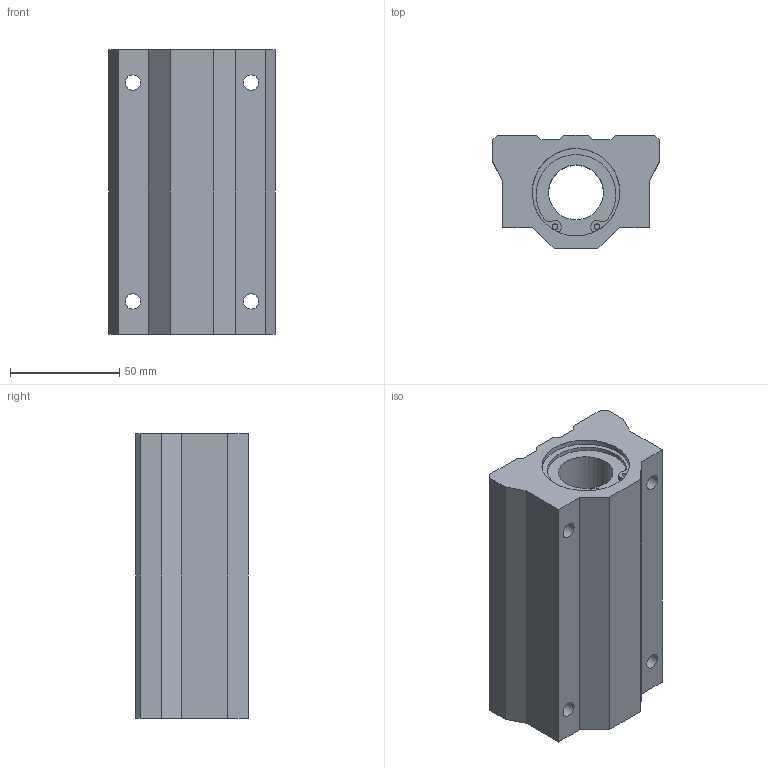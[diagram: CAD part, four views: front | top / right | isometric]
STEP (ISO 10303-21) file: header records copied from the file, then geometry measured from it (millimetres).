
FILE_DESCRIPTION(('STEP AP203'),'1');
FILE_NAME('//192.168.1.1/share/s-4 技術開発/s-4-4_CAD/s-4-4-3_見直し済み/008 修正済み/LC-L/LC-L_TOP/LC-25VLUU.step','2022-05-19T01:16:47',(' '),(' '),'Spatial InterOp 3D',' ',' ');
FILE_SCHEMA(('CONFIG_CONTROL_DESIGN'));
Length unit declared in the file: millimetre
Products named in the file (1): 1
Bounding box: 76 x 51.5 x 130 mm (x, y, z)
Volume: 340513.6 mm3; surface area: 50344.1 mm2
Topology: 1 solids, 1 shells, 65 faces, 171 edges, 114 vertices
Faces by surface type: plane 36, cylinder 29
Full cylindrical faces by diameter (mm): 2.5 x4, 7 x8, 25 x1, 40 x2
Entity records: 1956 total; most frequent: DIRECTION 338, CARTESIAN_POINT 324, ORIENTED_EDGE 300, EDGE_CURVE 150, AXIS2_PLACEMENT_3D 122, VERTEX_POINT 108, EDGE_LOOP 96, LINE 94
